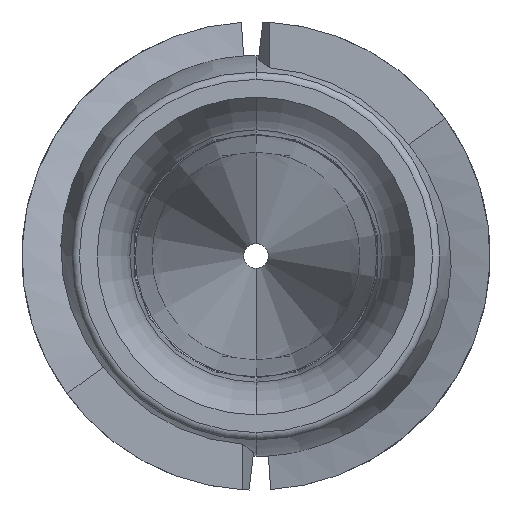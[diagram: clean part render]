
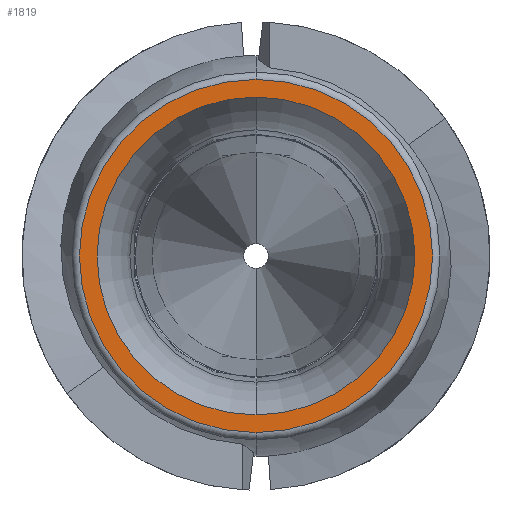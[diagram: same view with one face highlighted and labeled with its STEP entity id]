
A CAD part, front view. The second image highlights one B-rep face of the part: STEP entity #1819.
In plain terms, the highlighted planar face has unit normal (0, -1, 0).
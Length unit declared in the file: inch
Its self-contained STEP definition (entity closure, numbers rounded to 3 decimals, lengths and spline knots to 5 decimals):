
#4 = DIRECTION ( 'NONE',  ( 0., -1., 0. ) ) ;
#11 = DIRECTION ( 'NONE',  ( 0., 0., -1. ) ) ;
#37 = CARTESIAN_POINT ( 'NONE',  ( 0., 0., 0.11541 ) ) ;
#73 = ORIENTED_EDGE ( 'NONE', *, *, #1637, .F. ) ;
#108 = ORIENTED_EDGE ( 'NONE', *, *, #259, .T. ) ;
#150 = AXIS2_PLACEMENT_3D ( 'NONE', #1992, #1339, #799 ) ;
#233 = ORIENTED_EDGE ( 'NONE', *, *, #1014, .T. ) ;
#259 = EDGE_CURVE ( 'NONE', #1214, #2042, #1481, .T. ) ;
#279 = ORIENTED_EDGE ( 'NONE', *, *, #973, .F. ) ;
#382 = DIRECTION ( 'NONE',  ( 0., 1., 0. ) ) ;
#437 = VERTEX_POINT ( 'NONE', #525 ) ;
#459 = DIRECTION ( 'NONE',  ( 0., -1., 0. ) ) ;
#525 = CARTESIAN_POINT ( 'NONE',  ( 0., 0., 0.10388 ) ) ;
#529 = EDGE_LOOP ( 'NONE', ( #73, #279 ) ) ;
#574 = CARTESIAN_POINT ( 'NONE',  ( 0., 0., 0. ) ) ;
#598 = CIRCLE ( 'NONE', #150, 0.10388 ) ;
#695 = CARTESIAN_POINT ( 'NONE',  ( 0., 0., -0.11541 ) ) ;
#799 = DIRECTION ( 'NONE',  ( 0., 0., -1. ) ) ;
#826 = AXIS2_PLACEMENT_3D ( 'NONE', #574, #1598, #2082 ) ;
#872 = EDGE_LOOP ( 'NONE', ( #108, #233 ) ) ;
#911 = CARTESIAN_POINT ( 'NONE',  ( 0.11912, 0., 0. ) ) ;
#947 = AXIS2_PLACEMENT_3D ( 'NONE', #995, #4, #11 ) ;
#973 = EDGE_CURVE ( 'NONE', #437, #1609, #1129, .T. ) ;
#995 = CARTESIAN_POINT ( 'NONE',  ( 0., 0., 0. ) ) ;
#1014 = EDGE_CURVE ( 'NONE', #2042, #1214, #2114, .T. ) ;
#1129 = CIRCLE ( 'NONE', #947, 0.10388 ) ;
#1214 = VERTEX_POINT ( 'NONE', #37 ) ;
#1339 = DIRECTION ( 'NONE',  ( 0., -1., 0. ) ) ;
#1388 = PLANE ( 'NONE',  #2122 ) ;
#1455 = FACE_BOUND ( 'NONE', #529, .T. ) ;
#1481 = CIRCLE ( 'NONE', #1886, 0.11541 ) ;
#1553 = DIRECTION ( 'NONE',  ( 0., 0., 1. ) ) ;
#1598 = DIRECTION ( 'NONE',  ( 0., -1., 0. ) ) ;
#1609 = VERTEX_POINT ( 'NONE', #1974 ) ;
#1637 = EDGE_CURVE ( 'NONE', #1609, #437, #598, .T. ) ;
#1647 = DIRECTION ( 'NONE',  ( 0., 0., 1. ) ) ;
#1819 = ADVANCED_FACE ( 'NONE', ( #1941, #1455 ), #1388, .F. ) ;
#1820 = CARTESIAN_POINT ( 'NONE',  ( 0., 0., 0. ) ) ;
#1886 = AXIS2_PLACEMENT_3D ( 'NONE', #1820, #459, #1647 ) ;
#1941 = FACE_OUTER_BOUND ( 'NONE', #872, .T. ) ;
#1974 = CARTESIAN_POINT ( 'NONE',  ( 0., 0., -0.10388 ) ) ;
#1992 = CARTESIAN_POINT ( 'NONE',  ( 0., 0., 0. ) ) ;
#2042 = VERTEX_POINT ( 'NONE', #695 ) ;
#2082 = DIRECTION ( 'NONE',  ( 0., 0., 1. ) ) ;
#2114 = CIRCLE ( 'NONE', #826, 0.11541 ) ;
#2122 = AXIS2_PLACEMENT_3D ( 'NONE', #911, #382, #1553 ) ;
